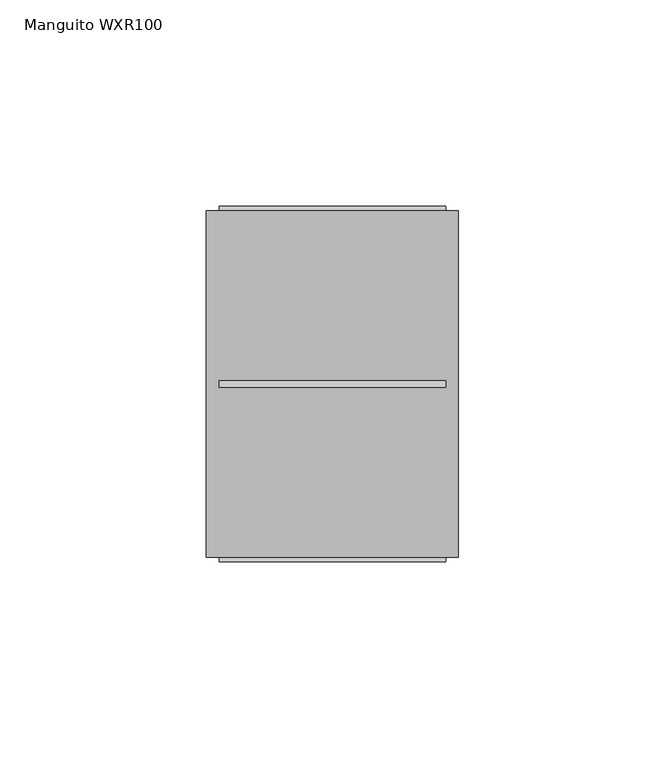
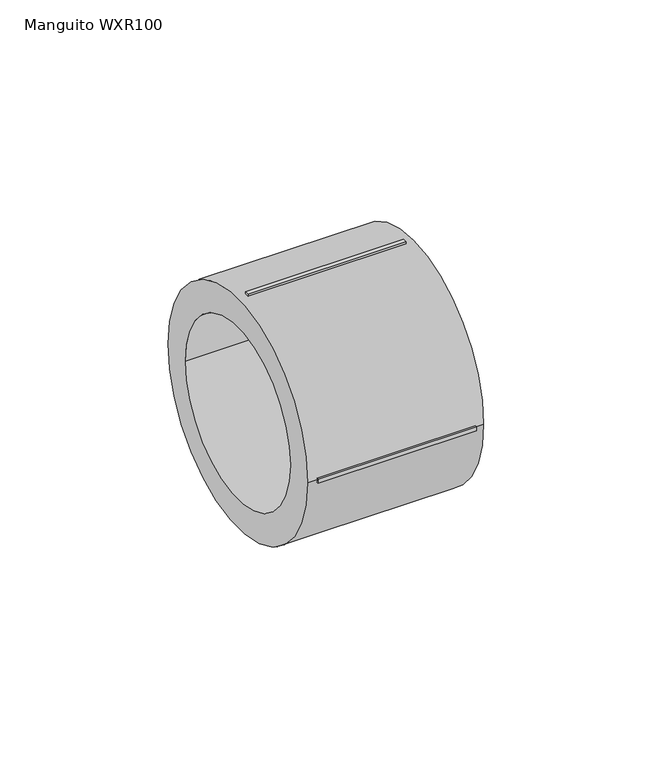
"""IFC4 building model written with IfcOpenShell, lengths in millimetres: pipe fitting geometry, EGB_VASEN_ PPR_Manguito WXR100 : Manguito WXR100."""

import ifcopenshell
import ifcopenshell.guid

model = None  # the IFC model being written
_history = None  # IfcOwnerHistory: only IFC2X3 demands one
_inside = {}  # id of a spatial element -> (the spatial element, [elements in it])
_under = {}  # id of a project, library or spatial element -> (it, [spatial elements below it])
_declared = {}  # id of a project -> (the project, [libraries it declares])
_typed = {}  # id of a type object -> (the type object, [elements of that type])
_made_of = {}  # id of a material, layer set ... -> (it, [elements and type objects made of it])


def new_model(schema):
    """Start an empty IFC model of exactly this schema.

    Asked for "IFC4X3", IfcOpenShell would pick the latest addendum, in which some entities
    have other attributes; the version numbers below select the first issue.
    IFC2X3 requires an IfcOwnerHistory on every rooted entity: one is made here for all.
    """
    global model, _history
    if schema == "IFC4X3":
        model = ifcopenshell.file(schema_version=(4, 3, 0, 0))
    else:
        model = ifcopenshell.file(schema=schema)
    _inside.clear()
    _under.clear()
    _declared.clear()
    _typed.clear()
    _made_of.clear()
    _history = None
    if model.schema == "IFC2X3":
        org = make("IfcOrganization", Name="unknown")
        user = make(
            "IfcPersonAndOrganization",
            ThePerson=make("IfcPerson", FamilyName="unknown"),
            TheOrganization=org,
        )
        app = make(
            "IfcApplication",
            ApplicationDeveloper=org,
            Version="unknown",
            ApplicationFullName="unknown",
            ApplicationIdentifier="unknown",
        )
        _history = make(
            "IfcOwnerHistory",
            OwningUser=user,
            OwningApplication=app,
            ChangeAction="ADDED",
            CreationDate=0,
        )
    return model


def make(cls, **values):
    """One entity of the class cls with the attributes given. An attribute that is None is left unset."""
    return model.create_entity(
        cls, **{name: value for name, value in values.items() if value is not None}
    )


def rooted(cls, **values):
    """An entity with a GlobalId (a new one), such as an element, a storey or a relation."""
    return make(cls, GlobalId=ifcopenshell.guid.new(), OwnerHistory=_history, **values)


def si_unit(unit_type, name, prefix=None):
    """IfcSIUnit, for example si_unit("LENGTHUNIT", "METRE", prefix="MILLI")."""
    return make("IfcSIUnit", UnitType=unit_type, Prefix=prefix, Name=name)


def assignment(units):
    """IfcUnitAssignment: the units of a project."""
    return None if units is None else make("IfcUnitAssignment", Units=units)


def point(xyz):
    """IfcCartesianPoint."""
    return None if xyz is None else make("IfcCartesianPoint", Coordinates=xyz)


def direction(xyz):
    """IfcDirection."""
    return None if xyz is None else make("IfcDirection", DirectionRatios=xyz)


def frame(location, z_axis=None, x_axis=None):
    """IfcAxis2Placement3D, a coordinate frame: its origin and axes. An axis left out is left unset."""
    return make(
        "IfcAxis2Placement3D",
        Location=point(location),
        Axis=direction(z_axis),
        RefDirection=direction(x_axis),
    )


def frame_2d(location, x_axis=None):
    """IfcAxis2Placement2D, a coordinate frame in the plane: its origin and x axis."""
    return make(
        "IfcAxis2Placement2D", Location=point(location), RefDirection=direction(x_axis)
    )


def origin():
    """The frame at (0, 0, 0) with its axes left unset."""
    return frame((0.0, 0.0, 0.0))


def origin_2d():
    """The frame at (0, 0) in the plane with its x axis left unset."""
    return frame_2d((0.0, 0.0))


def place(relative_to, where):
    """IfcLocalPlacement: puts the frame where relative to a parent placement (None: the world)."""
    return make(
        "IfcLocalPlacement", PlacementRelTo=relative_to, RelativePlacement=where
    )


def context(
    kind, dimensions, precision=None, world=None, true_north=None, identifier=None
):
    """IfcGeometricRepresentationContext, for example the 3D "Model" context."""
    return make(
        "IfcGeometricRepresentationContext",
        ContextIdentifier=identifier,
        ContextType=kind,
        CoordinateSpaceDimension=dimensions,
        Precision=precision,
        WorldCoordinateSystem=world,
        TrueNorth=true_north,
    )


def project(units=None, contexts=None):
    """IfcProject with its units and contexts."""
    return rooted(
        "IfcProject",
        Name="project",
        RepresentationContexts=contexts,
        UnitsInContext=assignment(units),
    )


def spatial(cls, under=None, at=None, **own):
    """A site, building, storey or space (cls), placed at a placement, below another one or the project."""
    s = rooted(cls, ObjectPlacement=at, **own)
    if under is not None:
        _under.setdefault(under.id(), (under, []))[1].append(s)
    return s


def polyline(points):
    """IfcPolyline through the points."""
    return make("IfcPolyline", Points=[point(p) for p in points])


def circle_curve(where, radius):
    """IfcCircle in the frame where."""
    return make("IfcCircle", Position=where, Radius=radius)


def trimmed(basis, trim1, trim2, sense, master):
    """IfcTrimmedCurve: the piece of a basis curve between two trims."""
    return make(
        "IfcTrimmedCurve",
        BasisCurve=basis,
        Trim1=trim1,
        Trim2=trim2,
        SenseAgreement=sense,
        MasterRepresentation=master,
    )


def segment(curve, same_sense, transition):
    """IfcCompositeCurveSegment."""
    return make(
        "IfcCompositeCurveSegment",
        Transition=transition,
        SameSense=same_sense,
        ParentCurve=curve,
    )


def composite_curve(segments, self_intersect=None):
    """IfcCompositeCurve: segments joined end to end."""
    return make("IfcCompositeCurve", Segments=segments, SelfIntersect=self_intersect)


def outline(outer, holes=None, kind="AREA"):
    """IfcArbitraryClosedProfileDef: a profile drawn as a closed curve; with holes, ...WithVoids."""
    if holes is None:
        return make("IfcArbitraryClosedProfileDef", ProfileType=kind, OuterCurve=outer)
    return make(
        "IfcArbitraryProfileDefWithVoids",
        ProfileType=kind,
        OuterCurve=outer,
        InnerCurves=holes,
    )


def extrude(swept, where, along, depth):
    """IfcExtrudedAreaSolid: the profile swept, set in the frame where, extruded along a direction by depth."""
    return make(
        "IfcExtrudedAreaSolid",
        SweptArea=swept,
        Position=where,
        ExtrudedDirection=direction(along),
        Depth=depth,
    )


def shape(context_of_items, identifier, shape_type, items):
    """IfcShapeRepresentation: the items that make up one representation, for example the "Body"."""
    return make(
        "IfcShapeRepresentation",
        ContextOfItems=context_of_items,
        RepresentationIdentifier=identifier,
        RepresentationType=shape_type,
        Items=items,
    )


def source(mapping_origin, context_of_items, identifier, shape_type, items):
    """IfcRepresentationMap: a shape defined once, which mapped items show again and again."""
    return make(
        "IfcRepresentationMap",
        MappingOrigin=mapping_origin,
        MappedRepresentation=shape(context_of_items, identifier, shape_type, items),
    )


def transform(
    local_origin,
    x_axis=None,
    y_axis=None,
    z_axis=None,
    scale=None,
    scale2=None,
    scale3=None,
    uniform=True,
):
    """IfcCartesianTransformationOperator3D, or its non-uniform kind. x_axis, y_axis, z_axis: its Axis1, 2, 3."""
    if uniform:
        return make(
            "IfcCartesianTransformationOperator3D",
            Axis1=direction(x_axis),
            Axis2=direction(y_axis),
            LocalOrigin=point(local_origin),
            Scale=scale,
            Axis3=direction(z_axis),
        )
    return make(
        "IfcCartesianTransformationOperator3DnonUniform",
        Axis1=direction(x_axis),
        Axis2=direction(y_axis),
        LocalOrigin=point(local_origin),
        Scale=scale,
        Axis3=direction(z_axis),
        Scale2=scale2,
        Scale3=scale3,
    )


def mapped(mapping_source, mapping_target):
    """IfcMappedItem: shows the shape of a source again, moved by a transform."""
    return make(
        "IfcMappedItem", MappingSource=mapping_source, MappingTarget=mapping_target
    )


def made_of(thing, what):
    """Note that an element or type object is made of a material, layer set ...; save() writes the relation."""
    if what is not None:
        _made_of.setdefault(what.id(), (what, []))[1].append(thing)
    return thing


def element(
    cls,
    number,
    at=None,
    inside=None,
    cuts=None,
    type_object=None,
    material=None,
    context=None,
    identifier="Body",
    shape_type=None,
    held_by="IfcProductDefinitionShape",
    body=None,
    shapes=None,
    **own,
):
    """One element of the class cls, such as IfcWall. Its Tag is "e" and its number.

    at: its placement. inside: the storey or other place that contains it. cuts: it is an
    opening in that element (IfcRelVoidsElement). A single representation is given by context,
    identifier, shape_type and body (its items); several are given by shapes. held_by: the class
    of the entity that holds the representations. save() writes the other relations.
    """
    e = rooted(cls, Tag="e%d" % number, ObjectPlacement=at, **own)
    if body is not None:
        shapes = [shape(context, identifier, shape_type, body)]
    if shapes is not None:
        e.Representation = make(held_by, Representations=shapes)
    if inside is not None:
        _inside.setdefault(inside.id(), (inside, []))[1].append(e)
    if cuts is not None:
        rooted(
            "IfcRelVoidsElement", RelatingBuildingElement=cuts, RelatedOpeningElement=e
        )
    if type_object is not None:
        _typed.setdefault(type_object.id(), (type_object, []))[1].append(e)
    return made_of(e, material)


def aggregate(whole, parts):
    """IfcRelAggregates: a whole, such as a stair, and the parts it consists of."""
    return rooted("IfcRelAggregates", RelatingObject=whole, RelatedObjects=parts)


def save(model, path):
    """Write the relations noted so far, then the file.

    IfcRelAggregates (storeys below a building ...), IfcRelContainedInSpatialStructure (elements
    in a storey), IfcRelDefinesByType, IfcRelAssociatesMaterial and IfcRelDeclares: one each for
    every whole, place, type object, material and project.
    """
    for whole, parts in _under.values():
        aggregate(whole, parts)
    for where, things in _inside.values():
        rooted(
            "IfcRelContainedInSpatialStructure",
            RelatedElements=things,
            RelatingStructure=where,
        )
    for kind, things in _typed.values():
        rooted("IfcRelDefinesByType", RelatedObjects=things, RelatingType=kind)
    for what, things in _made_of.values():
        rooted("IfcRelAssociatesMaterial", RelatedObjects=things, RelatingMaterial=what)
    for by, libraries in _declared.values():
        rooted("IfcRelDeclares", RelatingContext=by, RelatedDefinitions=libraries)
    model.write(path)


def manguito_wxr100_0329b107(model_context):
    return source(origin(), model_context, "Body", "SweptSolid", [
        extrude(outline(composite_curve([segment(trimmed(circle_curve(origin_2d(), 42.0), [point((-42.0, 0.0))], [point((42.0, 0.0))], False, "CARTESIAN"), True, "CONTINUOUS"), segment(trimmed(circle_curve(origin_2d(), 42.0), [point((42.0, 0.0))], [point((-42.0, 0.0))], False, "CARTESIAN"), True, "CONTINUOUS")], self_intersect=False), holes=[composite_curve([segment(trimmed(circle_curve(origin_2d(), 31.5), [point((-31.5, 0.0))], [point((31.5, 0.0))], True, "CARTESIAN"), True, "CONTINUOUS"), segment(trimmed(circle_curve(origin_2d(), 31.5), [point((31.5, 0.0))], [point((-31.5, 0.0))], True, "CARTESIAN"), True, "CONTINUOUS")], self_intersect=False)]), frame((-30.5, 0.0, 0.0), z_axis=(1.0, 0.0, 0.0), x_axis=(0.0, 1.0, 0.0)), (0.0, 0.0, 1.0), 61.0),
        extrude(outline(polyline([(27.45, 0.75), (27.45, -0.75), (-27.45, -0.75), (-27.45, 0.75), (27.45, 0.75)])), frame((0.0, 0.0, 41.0), z_axis=(0.0, 0.0, 1.0), x_axis=(1.0, 0.0, 0.0)), (0.0, 0.0, 1.0), 2.0),
        extrude(outline(polyline([(27.45, 0.75), (27.45, -0.75), (-27.45, -0.75), (-27.45, 0.75), (27.45, 0.75)])), frame((0.0, 0.0, -43.0), z_axis=(0.0, 0.0, 1.0), x_axis=(1.0, 0.0, 0.0)), (0.0, 0.0, 1.0), 2.0),
        extrude(outline(polyline([(27.45, 43.0), (27.45, 41.0), (-27.45, 41.0), (-27.45, 43.0), (27.45, 43.0)])), frame((0.0, 0.0, -0.75), z_axis=(0.0, 0.0, 1.0), x_axis=(1.0, 0.0, 0.0)), (0.0, 0.0, 1.0), 1.5),
        extrude(outline(polyline([(27.45, -41.0), (27.45, -43.0), (-27.45, -43.0), (-27.45, -41.0), (27.45, -41.0)])), frame((0.0, 0.0, -0.75), z_axis=(0.0, 0.0, 1.0), x_axis=(1.0, 0.0, 0.0)), (0.0, 0.0, 1.0), 1.5),
    ])


if __name__ == "__main__":
    model = new_model("IFC4")
    model_context = context("Model", 3, world=origin())
    ifc_project = project(units=[si_unit("LENGTHUNIT", "METRE", prefix="MILLI")], contexts=[model_context])
    site = spatial("IfcSite", under=ifc_project)
    building = spatial("IfcBuilding", under=site)
    placement = place(None, origin())
    manguito_wxr100_shape = manguito_wxr100_0329b107(model_context)
    element("IfcPipeFitting", 1, ObjectType="EGB_VASEN_ PPR_Manguito WXR100 : Manguito WXR100", at=placement, inside=building, context=model_context, shape_type="MappedRepresentation", body=[
        mapped(manguito_wxr100_shape, transform((0.0, 0.0, 0.0), x_axis=(1.0, 0.0, 0.0), y_axis=(0.0, 1.0, 0.0), z_axis=(0.0, 0.0, 1.0))),
    ])
    save(model, "model.ifc")
